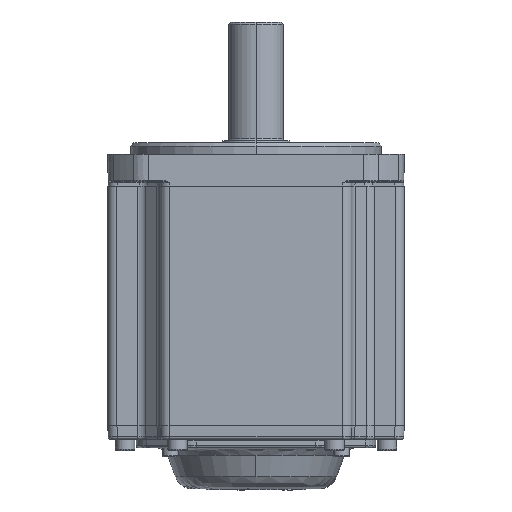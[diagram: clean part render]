
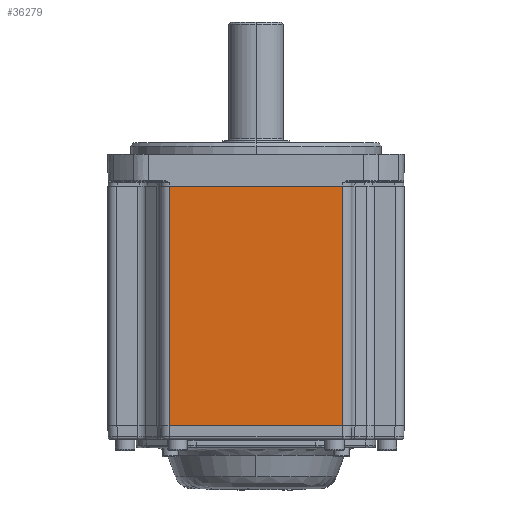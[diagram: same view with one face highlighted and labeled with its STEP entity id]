
A CAD part, front view. The second image highlights one B-rep face of the part: STEP entity #36279.
In plain terms, the highlighted planar face has unit normal (0, -1, 0).
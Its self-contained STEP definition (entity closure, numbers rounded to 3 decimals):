
#598 = EDGE_CURVE ( 'NONE', #32334, #11568, #50013, .T. ) ;
#4178 = DIRECTION ( 'NONE',  ( 0., 0., 1. ) ) ;
#7120 = VECTOR ( 'NONE', #8556, 1000. ) ;
#8267 = VECTOR ( 'NONE', #48931, 1000. ) ;
#8556 = DIRECTION ( 'NONE',  ( 1., 0., 0. ) ) ;
#9253 = EDGE_CURVE ( 'NONE', #20991, #11568, #26339, .T. ) ;
#11568 = VERTEX_POINT ( 'NONE', #13654 ) ;
#12143 = AXIS2_PLACEMENT_3D ( 'NONE', #13818, #52128, #4178 ) ;
#13654 = CARTESIAN_POINT ( 'NONE',  ( 38., -65., 47.8 ) ) ;
#13818 = CARTESIAN_POINT ( 'NONE',  ( -42., -65., 942.8 ) ) ;
#13857 = VERTEX_POINT ( 'NONE', #42064 ) ;
#14063 = CARTESIAN_POINT ( 'NONE',  ( 38., -65., -57.2 ) ) ;
#15485 = ORIENTED_EDGE ( 'NONE', *, *, #598, .F. ) ;
#16416 = EDGE_CURVE ( 'NONE', #32334, #13857, #53323, .T. ) ;
#17901 = LINE ( 'NONE', #55548, #54787 ) ;
#20991 = VERTEX_POINT ( 'NONE', #14063 ) ;
#25656 = EDGE_LOOP ( 'NONE', ( #15485, #44962, #55257, #46719 ) ) ;
#26339 = LINE ( 'NONE', #29802, #8267 ) ;
#27023 = DIRECTION ( 'NONE',  ( 0., 0., -1. ) ) ;
#27312 = PLANE ( 'NONE',  #12143 ) ;
#29802 = CARTESIAN_POINT ( 'NONE',  ( 38., -65., 942.8 ) ) ;
#30445 = CARTESIAN_POINT ( 'NONE',  ( -38., -65., 47.8 ) ) ;
#32334 = VERTEX_POINT ( 'NONE', #30445 ) ;
#36279 = ADVANCED_FACE ( 'NONE', ( #59176 ), #27312, .F. ) ;
#37451 = VECTOR ( 'NONE', #27023, 1000. ) ;
#41397 = DIRECTION ( 'NONE',  ( 1., 0., 0. ) ) ;
#41914 = CARTESIAN_POINT ( 'NONE',  ( -38., -65., 942.8 ) ) ;
#42064 = CARTESIAN_POINT ( 'NONE',  ( -38., -65., -57.2 ) ) ;
#44962 = ORIENTED_EDGE ( 'NONE', *, *, #16416, .T. ) ;
#46719 = ORIENTED_EDGE ( 'NONE', *, *, #9253, .T. ) ;
#48931 = DIRECTION ( 'NONE',  ( 0., 0., 1. ) ) ;
#50013 = LINE ( 'NONE', #51469, #7120 ) ;
#50362 = EDGE_CURVE ( 'NONE', #13857, #20991, #17901, .T. ) ;
#51469 = CARTESIAN_POINT ( 'NONE',  ( -42., -65., 47.8 ) ) ;
#52128 = DIRECTION ( 'NONE',  ( 0., 1., 0. ) ) ;
#53323 = LINE ( 'NONE', #41914, #37451 ) ;
#54787 = VECTOR ( 'NONE', #41397, 1000. ) ;
#55257 = ORIENTED_EDGE ( 'NONE', *, *, #50362, .T. ) ;
#55548 = CARTESIAN_POINT ( 'NONE',  ( -42., -65., -57.2 ) ) ;
#59176 = FACE_OUTER_BOUND ( 'NONE', #25656, .T. ) ;
